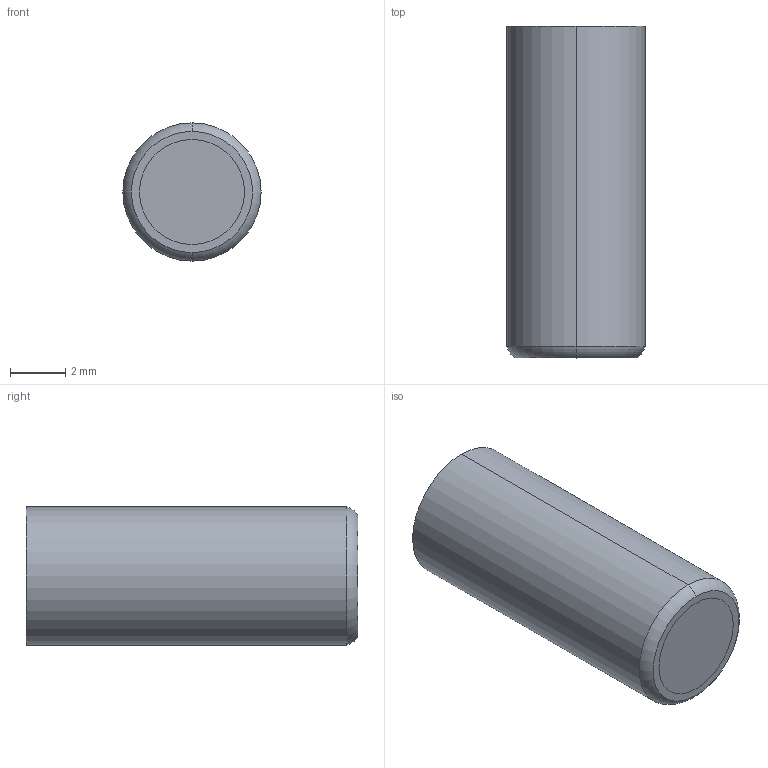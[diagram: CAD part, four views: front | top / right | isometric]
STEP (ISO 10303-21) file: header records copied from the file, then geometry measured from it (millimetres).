
FILE_DESCRIPTION (( 'STEP AP214' ), '1' );
FILE_NAME ('FA053000-SF.STEP', '2013-06-28T07:17:46', ( '' ), ( '' ), 'SwSTEP 2.0', 'SolidWorks 2011', '' );
FILE_SCHEMA (( 'AUTOMOTIVE_DESIGN' ));
Length unit declared in the file: millimetre
Products named in the file (6): IA 3075SF; FA 053000-1; 9FA 053012; FA 053000-2; FA 053000-3; FA053000-SF
Assembly tree (5 placements, depth 2):
  FA053000-SF
    FA 053000-3
    FA 053000-2
    IA 3075SF
    9FA 053012
    FA 053000-1
Bounding box: 5 x 12 x 5 mm (x, y, z)
Volume: 204.6 mm3; surface area: 600 mm2
Topology: 5 solids, 5 shells, 278 faces, 692 edges, 456 vertices
Faces by surface type: cylinder 135, plane 125, cone 12, bspline 4, torus 2
Entity records: 10672 total; most frequent: CARTESIAN_POINT 3450, DIRECTION 1536, ORIENTED_EDGE 1384, EDGE_CURVE 692, AXIS2_PLACEMENT_3D 572, VERTEX_POINT 456, LINE 392, VECTOR 392
